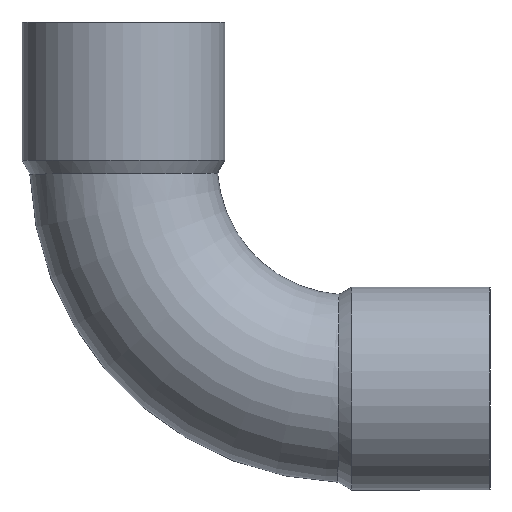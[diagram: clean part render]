
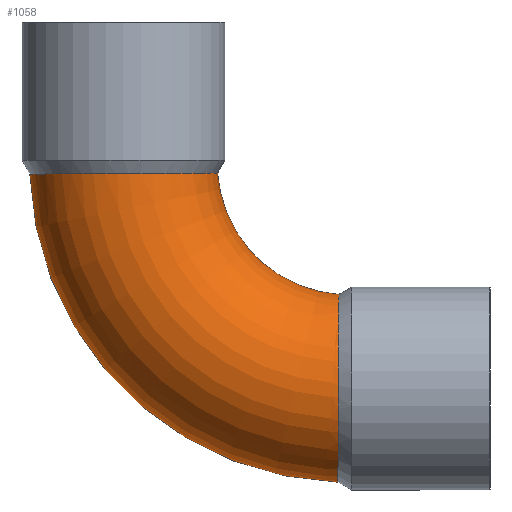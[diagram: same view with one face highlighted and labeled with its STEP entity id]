
A CAD part, front view. The second image highlights one B-rep face of the part: STEP entity #1058.
In plain terms, the highlighted toroidal (fillet/blend) face has major radius 26.4 mm and minor radius 11 mm.
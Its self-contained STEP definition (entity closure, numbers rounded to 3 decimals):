
#49=CARTESIAN_POINT('',(-15.345,0.,-1.235));
#50=VERTEX_POINT('',#49);
#51=CARTESIAN_POINT('',(20.8,0.,-37.38));
#52=VERTEX_POINT('',#51);
#53=CARTESIAN_POINT('',(22.035,0.,0.0));
#54=DIRECTION('',(0.0,-1.0,0.0));
#55=DIRECTION('',(0.0,0.0,-1.0));
#56=AXIS2_PLACEMENT_3D('',#53,#54,#55);
#57=CIRCLE('',#56,37.4);
#58=EDGE_CURVE('',#50,#52,#57,.T.);
#60=CARTESIAN_POINT('',(6.676,0.,-1.128));
#61=VERTEX_POINT('',#60);
#85=CARTESIAN_POINT('',(20.907,0.,-15.359));
#86=VERTEX_POINT('',#85);
#87=CARTESIAN_POINT('',(22.035,0.,0.0));
#88=DIRECTION('',(0.0,1.0,0.0));
#89=DIRECTION('',(0.0,0.0,-1.0));
#90=AXIS2_PLACEMENT_3D('',#87,#88,#89);
#91=CIRCLE('',#90,15.4);
#92=EDGE_CURVE('',#86,#61,#91,.T.);
#224=CARTESIAN_POINT('',(6.676,0.,-1.128));
#225=CARTESIAN_POINT('',(6.676,-0.095,-1.128));
#226=CARTESIAN_POINT('',(6.675,-0.19,-1.128));
#227=CARTESIAN_POINT('',(6.636,-1.716,-1.129));
#228=CARTESIAN_POINT('',(6.319,-3.125,-1.132));
#229=CARTESIAN_POINT('',(5.162,-5.747,-1.142));
#230=CARTESIAN_POINT('',(4.332,-6.933,-1.149));
#231=CARTESIAN_POINT('',(2.263,-8.921,-1.165));
#232=CARTESIAN_POINT('',(1.044,-9.703,-1.173));
#233=CARTESIAN_POINT('',(-1.626,-10.757,-1.188));
#234=CARTESIAN_POINT('',(-3.05,-11.018,-1.194));
#235=CARTESIAN_POINT('',(-5.919,-10.98,-1.207));
#236=CARTESIAN_POINT('',(-7.335,-10.681,-1.212));
#237=CARTESIAN_POINT('',(-9.972,-9.558,-1.221));
#238=CARTESIAN_POINT('',(-11.168,-8.744,-1.224));
#239=CARTESIAN_POINT('',(-13.18,-6.705,-1.23));
#240=CARTESIAN_POINT('',(-13.978,-5.499,-1.232));
#241=CARTESIAN_POINT('',(-15.065,-2.85,-1.235));
#242=CARTESIAN_POINT('',(-15.345,-1.432,-1.235));
#243=CARTESIAN_POINT('',(-15.345,0.,-1.235));
#244=B_SPLINE_CURVE_WITH_KNOTS('',3,(#224,#225,#226,#227,#228,#229,#230,#231,#232,#233,#234,#235,#236,#237,#238,#239,#240,#241,#242,#243),.UNSPECIFIED.,.F.,.U.,(4,2,2,2,2,2,2,2,2,4),(-3.468,-3.44,-3.01,-2.58,-2.149,-1.719,-1.289,-0.859,-0.43,0.0),.UNSPECIFIED.);
#245=EDGE_CURVE('',#61,#50,#244,.T.);
#1025=CARTESIAN_POINT('',(22.035,0.,0.0));
#1026=DIRECTION('',(0.0,-1.0,0.0));
#1027=DIRECTION('',(0.0,0.0,-1.0));
#1028=AXIS2_PLACEMENT_3D('',#1025,#1026,#1027);
#1029=TOROIDAL_SURFACE('',#1028,26.4,11.0);
#1030=ORIENTED_EDGE('',*,*,#58,.T.);
#1031=CARTESIAN_POINT('',(20.8,0.,-37.38));
#1032=CARTESIAN_POINT('',(20.8,-0.811,-37.38));
#1033=CARTESIAN_POINT('',(20.8,-1.619,-37.29));
#1034=CARTESIAN_POINT('',(20.801,-3.201,-36.935));
#1035=CARTESIAN_POINT('',(20.801,-3.97,-36.67));
#1036=CARTESIAN_POINT('',(20.804,-5.998,-35.71));
#1037=CARTESIAN_POINT('',(20.806,-7.161,-34.851));
#1038=CARTESIAN_POINT('',(20.812,-9.092,-32.733));
#1039=CARTESIAN_POINT('',(20.816,-9.842,-31.495));
#1040=CARTESIAN_POINT('',(20.825,-10.825,-28.8));
#1041=CARTESIAN_POINT('',(20.831,-11.048,-27.369));
#1042=CARTESIAN_POINT('',(20.843,-10.934,-24.501));
#1043=CARTESIAN_POINT('',(20.85,-10.598,-23.092));
#1044=CARTESIAN_POINT('',(20.866,-9.404,-20.483));
#1045=CARTESIAN_POINT('',(20.874,-8.558,-19.308));
#1046=CARTESIAN_POINT('',(20.888,-6.466,-17.349));
#1047=CARTESIAN_POINT('',(20.895,-5.241,-16.584));
#1048=CARTESIAN_POINT('',(20.904,-2.656,-15.601));
#1049=CARTESIAN_POINT('',(20.907,-1.333,-15.359));
#1050=CARTESIAN_POINT('',(20.907,0.,-15.359));
#1051=B_SPLINE_CURVE_WITH_KNOTS('',3,(#1031,#1032,#1033,#1034,#1035,#1036,#1037,#1038,#1039,#1040,#1041,#1042,#1043,#1044,#1045,#1046,#1047,#1048,#1049,#1050),.UNSPECIFIED.,.F.,.U.,(4,2,2,2,2,2,2,2,2,4),(-6.935,-6.692,-6.449,-6.019,-5.589,-5.159,-4.728,-4.298,-3.869,-3.468),.UNSPECIFIED.);
#1052=EDGE_CURVE('',#52,#86,#1051,.T.);
#1053=ORIENTED_EDGE('',*,*,#1052,.T.);
#1054=ORIENTED_EDGE('',*,*,#92,.T.);
#1055=ORIENTED_EDGE('',*,*,#245,.T.);
#1056=EDGE_LOOP('',(#1030,#1053,#1054,#1055));
#1057=FACE_OUTER_BOUND('',#1056,.T.);
#1058=ADVANCED_FACE('',(#1057),#1029,.T.);
